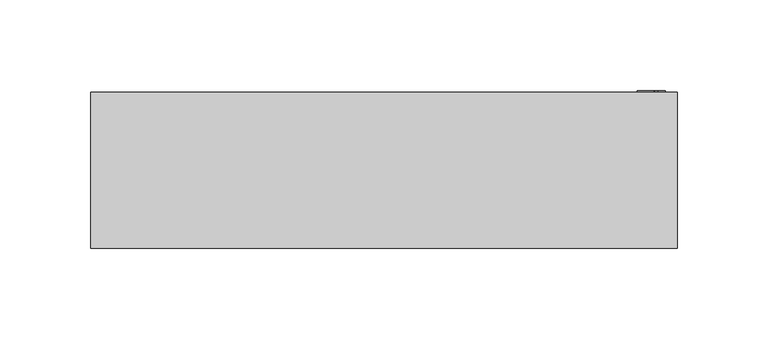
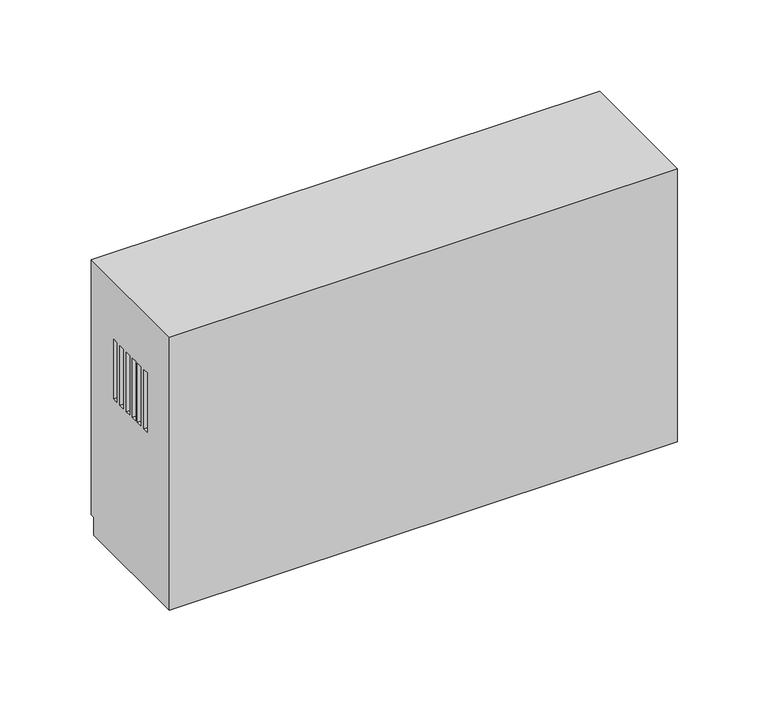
"""IFC4 building model written with IfcOpenShell, lengths in millimetres: proxy geometry, RBZ_ИсточникВторичногоЭлектропитания_Рубеж_ИВЭПР12_RS-R3 : ИВЭПР 12/2 RS-R3 исп. 2x7 БР."""

from ifc_helpers import new_model, si_unit, frame, origin, place, context, project, spatial, polyline, outline, extrude, faceted_brep, source, transform, mapped, element, save


def electrical_equipment_721526f4(model_context):
    return source(origin(), model_context, "Body", "SolidModel", [
        extrude(outline(polyline([(176.6384831, 149.2508118), (176.6384831, 139.7363534), (172.0, 141.6104222), (172.0, 143.424491), (167.111638, 139.8728881), (167.111638, 142.4591208), (169.2844063, 143.870133), (169.2844063, 155.1628392), (179.5143718, 151.0296648), (177.4019739, 149.4949179), (171.2902337, 151.9642212), (171.2902337, 145.5259075), (173.7640898, 147.1324483), (173.7640898, 143.0962224), (174.6138167, 142.7529104), (174.6138167, 147.7663282), (172.0, 148.8223788), (172.0, 151.1248807), (176.6384831, 149.2508118)])), frame((0.0, 86.0, 0.0), z_axis=(0.0, 1.0, 0.0), x_axis=(0.0, 0.0, 1.0)), (0.0, 0.0, 1.0), 1.0),
        faceted_brep([(-162.0, 0.0, 184.0), (162.0, 0.0, 184.0), (162.0, 86.0, 184.0), (-162.0, 86.0, 184.0), (162.0, 0.0, 0.0), (-162.0, 0.0, 0.0), (-162.0, 83.2133587, 0.0), (162.0, 83.2133587, 0.0), (162.0, 83.2133587, 12.2239997), (162.0, 86.0, 12.2239997), (162.0, 28.1513363, 145.03189), (162.0, 28.1513363, 105.03189), (162.0, 24.4013363, 105.03189), (162.0, 24.4013363, 145.03189), (162.0, 35.2686539, 145.03189), (162.0, 35.2686539, 105.03189), (162.0, 31.5186539, 105.03189), (162.0, 31.5186539, 145.03189), (162.0, 40.8936539, 145.03189), (162.0, 40.8936539, 105.03189), (162.0, 37.1436539, 105.03189), (162.0, 37.1436539, 145.03189), (162.0, 47.3859715, 145.03189), (162.0, 47.3859715, 105.03189), (162.0, 43.6359715, 105.03189), (162.0, 43.6359715, 145.03189), (162.0, 54.5032891, 145.03189), (162.0, 54.5032891, 105.03189), (162.0, 50.7532891, 105.03189), (162.0, 50.7532891, 145.03189), (162.0, 61.6206067, 145.03189), (162.0, 61.6206067, 105.03189), (162.0, 57.8706067, 105.03189), (162.0, 57.8706067, 145.03189), (-162.0, 86.0, 12.2239997), (117.0, 86.0, 176.0), (112.2617785, 86.0, 176.0), (112.2617785, 86.0, 171.0), (117.0, 86.0, 171.0), (109.9927009, 86.0, 176.0), (105.2544795, 86.0, 176.0), (105.2544795, 86.0, 171.0), (109.9927009, 86.0, 171.0), (102.9854019, 86.0, 176.0), (98.2471804, 86.0, 176.0), (98.2471804, 86.0, 171.0), (102.9854019, 86.0, 171.0), (-162.0, 83.2133587, 12.2239997), (-162.0, 28.1513363, 105.03189), (-162.0, 28.1513363, 145.03189), (-162.0, 24.4013363, 145.03189), (-162.0, 24.4013363, 105.03189), (-162.0, 35.2686539, 105.03189), (-162.0, 35.2686539, 145.03189), (-162.0, 31.5186539, 145.03189), (-162.0, 31.5186539, 105.03189), (-162.0, 40.8936539, 105.03189), (-162.0, 40.8936539, 145.03189), (-162.0, 37.1436539, 145.03189), (-162.0, 37.1436539, 105.03189), (-162.0, 47.3859715, 105.03189), (-162.0, 47.3859715, 145.03189), (-162.0, 43.6359715, 145.03189), (-162.0, 43.6359715, 105.03189), (-162.0, 54.5032891, 105.03189), (-162.0, 54.5032891, 145.03189), (-162.0, 50.7532891, 145.03189), (-162.0, 50.7532891, 105.03189), (-162.0, 61.6206067, 105.03189), (-162.0, 61.6206067, 145.03189), (-162.0, 57.8706067, 145.03189), (-162.0, 57.8706067, 105.03189), (137.907021, 28.1513363, 145.03189), (137.907021, 24.4013363, 145.03189), (137.907021, 24.4013363, 105.03189), (137.907021, 28.1513363, 105.03189), (137.907021, 35.2686539, 145.03189), (137.907021, 31.5186539, 145.03189), (137.907021, 31.5186539, 105.03189), (137.907021, 35.2686539, 105.03189), (137.907021, 40.8936539, 145.03189), (137.907021, 37.1436539, 145.03189), (137.907021, 37.1436539, 105.03189), (137.907021, 40.8936539, 105.03189), (137.907021, 47.3859715, 145.03189), (137.907021, 43.6359715, 145.03189), (137.907021, 43.6359715, 105.03189), (137.907021, 47.3859715, 105.03189), (137.907021, 54.5032891, 145.03189), (137.907021, 50.7532891, 145.03189), (137.907021, 50.7532891, 105.03189), (137.907021, 54.5032891, 105.03189), (137.907021, 61.6206067, 145.03189), (137.907021, 57.8706067, 145.03189), (137.907021, 57.8706067, 105.03189), (137.907021, 61.6206067, 105.03189), (-137.907021, 28.1513363, 145.03189), (-137.907021, 28.1513363, 105.03189), (-137.907021, 24.4013363, 105.03189), (-137.907021, 24.4013363, 145.03189), (-137.907021, 35.2686539, 145.03189), (-137.907021, 35.2686539, 105.03189), (-137.907021, 31.5186539, 105.03189), (-137.907021, 31.5186539, 145.03189), (-137.907021, 40.8936539, 145.03189), (-137.907021, 40.8936539, 105.03189), (-137.907021, 37.1436539, 105.03189), (-137.907021, 37.1436539, 145.03189), (-137.907021, 47.3859715, 145.03189), (-137.907021, 47.3859715, 105.03189), (-137.907021, 43.6359715, 105.03189), (-137.907021, 43.6359715, 145.03189), (-137.907021, 54.5032891, 145.03189), (-137.907021, 54.5032891, 105.03189), (-137.907021, 50.7532891, 105.03189), (-137.907021, 50.7532891, 145.03189), (-137.907021, 61.6206067, 145.03189), (-137.907021, 61.6206067, 105.03189), (-137.907021, 57.8706067, 105.03189), (-137.907021, 57.8706067, 145.03189), (112.2617785, 83.2133587, 176.0), (117.0, 83.2133587, 176.0), (117.0, 83.2133587, 171.0), (112.2617785, 83.2133587, 171.0), (105.2544795, 83.2133587, 176.0), (109.9927009, 83.2133587, 176.0), (109.9927009, 83.2133587, 171.0), (105.2544795, 83.2133587, 171.0), (98.2471804, 83.2133587, 176.0), (102.9854019, 83.2133587, 176.0), (102.9854019, 83.2133587, 171.0), (98.2471804, 83.2133587, 171.0)], [[[0, 1, 2, 3]], [[4, 5, 6, 7]], [[1, 0, 5, 4]], [[2, 1, 4, 7, 8, 9], [10, 11, 12, 13], [14, 15, 16, 17], [18, 19, 20, 21], [22, 23, 24, 25], [26, 27, 28, 29], [30, 31, 32, 33]], [[3, 2, 9, 34], [35, 36, 37, 38], [39, 40, 41, 42], [43, 44, 45, 46]], [[0, 3, 34, 47, 6, 5], [48, 49, 50, 51], [52, 53, 54, 55], [56, 57, 58, 59], [60, 61, 62, 63], [64, 65, 66, 67], [68, 69, 70, 71]], [[72, 73, 74, 75]], [[76, 77, 78, 79]], [[80, 81, 82, 83]], [[84, 85, 86, 87]], [[88, 89, 90, 91]], [[92, 93, 94, 95]], [[72, 75, 11, 10]], [[75, 74, 12, 11]], [[74, 73, 13, 12]], [[73, 72, 10, 13]], [[76, 79, 15, 14]], [[79, 78, 16, 15]], [[78, 77, 17, 16]], [[77, 76, 14, 17]], [[80, 83, 19, 18]], [[83, 82, 20, 19]], [[82, 81, 21, 20]], [[81, 80, 18, 21]], [[84, 87, 23, 22]], [[87, 86, 24, 23]], [[86, 85, 25, 24]], [[85, 84, 22, 25]], [[88, 91, 27, 26]], [[91, 90, 28, 27]], [[90, 89, 29, 28]], [[89, 88, 26, 29]], [[92, 95, 31, 30]], [[95, 94, 32, 31]], [[94, 93, 33, 32]], [[93, 92, 30, 33]], [[96, 97, 98, 99]], [[100, 101, 102, 103]], [[104, 105, 106, 107]], [[108, 109, 110, 111]], [[112, 113, 114, 115]], [[116, 117, 118, 119]], [[97, 96, 49, 48]], [[98, 97, 48, 51]], [[99, 98, 51, 50]], [[96, 99, 50, 49]], [[101, 100, 53, 52]], [[102, 101, 52, 55]], [[103, 102, 55, 54]], [[100, 103, 54, 53]], [[105, 104, 57, 56]], [[106, 105, 56, 59]], [[107, 106, 59, 58]], [[104, 107, 58, 57]], [[109, 108, 61, 60]], [[110, 109, 60, 63]], [[111, 110, 63, 62]], [[108, 111, 62, 61]], [[113, 112, 65, 64]], [[114, 113, 64, 67]], [[115, 114, 67, 66]], [[112, 115, 66, 65]], [[117, 116, 69, 68]], [[118, 117, 68, 71]], [[119, 118, 71, 70]], [[116, 119, 70, 69]], [[47, 8, 7, 6]], [[8, 47, 34, 9]], [[120, 121, 122, 123]], [[124, 125, 126, 127]], [[128, 129, 130, 131]], [[121, 120, 36, 35]], [[122, 121, 35, 38]], [[123, 122, 38, 37]], [[120, 123, 37, 36]], [[125, 124, 40, 39]], [[126, 125, 39, 42]], [[127, 126, 42, 41]], [[124, 127, 41, 40]], [[129, 128, 44, 43]], [[130, 129, 43, 46]], [[131, 130, 46, 45]], [[128, 131, 45, 44]]]),
    ])


if __name__ == "__main__":
    model = new_model("IFC4")
    model_context = context("Model", 3, world=origin())
    ifc_project = project(units=[si_unit("LENGTHUNIT", "METRE", prefix="MILLI")], contexts=[model_context])
    site = spatial("IfcSite", under=ifc_project)
    building = spatial("IfcBuilding", under=site)
    placement = place(None, origin())
    electrical_equipment_shape = electrical_equipment_721526f4(model_context)
    element("IfcBuildingElementProxy", 1, Name="RBZ_ИсточникВторичногоЭлектропитания_Рубеж_ИВЭПР12_RS-R3 : ИВЭПР 12/2 RS-R3 исп. 2x7 БР", ObjectType="RBZ_ИсточникВторичногоЭлектропитания_Рубеж_ИВЭПР12_RS-R3 : ИВЭПР 12/2 RS-R3 исп. 2x7 БР", at=placement, inside=building, context=model_context, shape_type="MappedRepresentation", body=[
        mapped(electrical_equipment_shape, transform((0.0, 0.0, 0.0), x_axis=(1.0, 0.0, 0.0), y_axis=(0.0, 1.0, 0.0), z_axis=(0.0, 0.0, 1.0))),
    ])
    save(model, "model.ifc")
